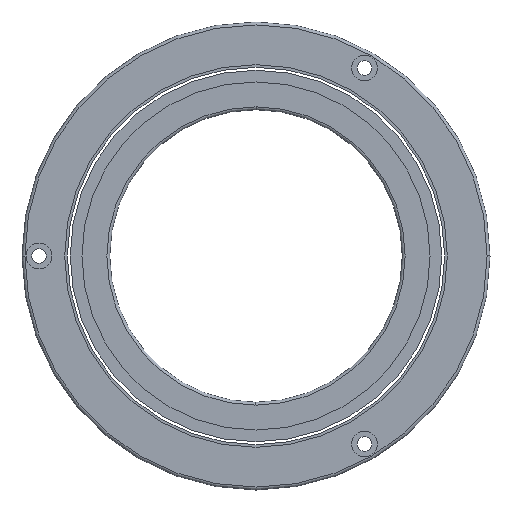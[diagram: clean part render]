
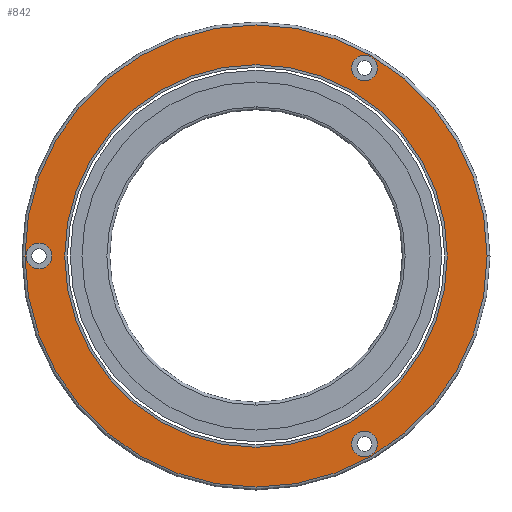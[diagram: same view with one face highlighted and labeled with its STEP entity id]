
A CAD part, front view. The second image highlights one B-rep face of the part: STEP entity #842.
In plain terms, the highlighted planar face has unit normal (0, -1, 0).
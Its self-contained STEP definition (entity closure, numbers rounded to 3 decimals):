
#61=CARTESIAN_POINT('',(0.,0.,0.));
#62=DIRECTION('',(0.,-1.,0.));
#63=DIRECTION('',(-1.,0.,0.));
#64=AXIS2_PLACEMENT_3D('',#61,#62,#63);
#66=CARTESIAN_POINT('',(0.,0.,0.));
#67=DIRECTION('',(0.,1.,0.));
#68=DIRECTION('',(-1.,0.,0.));
#69=AXIS2_PLACEMENT_3D('',#66,#67,#68);
#71=CARTESIAN_POINT('',(-37.1,0.,0.));
#72=DIRECTION('',(0.,1.,0.));
#73=DIRECTION('',(1.,0.,0.));
#74=AXIS2_PLACEMENT_3D('',#71,#72,#73);
#76=CARTESIAN_POINT('',(-37.1,0.,0.));
#77=DIRECTION('',(0.,1.,0.));
#78=DIRECTION('',(-1.,0.,0.));
#79=AXIS2_PLACEMENT_3D('',#76,#77,#78);
#81=CARTESIAN_POINT('',(18.55,0.,32.13));
#82=DIRECTION('',(0.,1.,0.));
#83=DIRECTION('',(-0.5,0.,-0.866));
#84=AXIS2_PLACEMENT_3D('',#81,#82,#83);
#86=CARTESIAN_POINT('',(18.55,0.,32.13));
#87=DIRECTION('',(0.,1.,0.));
#88=DIRECTION('',(0.5,0.,0.866));
#89=AXIS2_PLACEMENT_3D('',#86,#87,#88);
#91=CARTESIAN_POINT('',(18.55,0.,-32.13));
#92=DIRECTION('',(0.,1.,0.));
#93=DIRECTION('',(-0.5,0.,0.866));
#94=AXIS2_PLACEMENT_3D('',#91,#92,#93);
#96=CARTESIAN_POINT('',(18.55,0.,-32.13));
#97=DIRECTION('',(0.,1.,0.));
#98=DIRECTION('',(0.5,0.,-0.866));
#99=AXIS2_PLACEMENT_3D('',#96,#97,#98);
#101=CARTESIAN_POINT('',(0.,0.,0.));
#102=DIRECTION('',(0.,1.,0.));
#103=DIRECTION('',(-1.,0.,0.));
#104=AXIS2_PLACEMENT_3D('',#101,#102,#103);
#106=CARTESIAN_POINT('',(0.,0.,0.));
#107=DIRECTION('',(0.,1.,0.));
#108=DIRECTION('',(1.,0.,0.));
#109=AXIS2_PLACEMENT_3D('',#106,#107,#108);
#667=CARTESIAN_POINT('',(-34.9,0.,0.));
#668=VERTEX_POINT('',#667);
#669=CARTESIAN_POINT('',(-39.3,0.,0.));
#670=VERTEX_POINT('',#669);
#679=CARTESIAN_POINT('',(17.45,0.,30.224));
#680=VERTEX_POINT('',#679);
#681=CARTESIAN_POINT('',(19.65,0.,34.035));
#682=VERTEX_POINT('',#681);
#691=CARTESIAN_POINT('',(17.45,0.,-30.224));
#692=VERTEX_POINT('',#691);
#693=CARTESIAN_POINT('',(19.65,0.,-34.035));
#694=VERTEX_POINT('',#693);
#712=CARTESIAN_POINT('',(-32.7,0.,0.));
#714=VERTEX_POINT('',#712);
#716=CARTESIAN_POINT('',(32.7,0.,0.));
#718=VERTEX_POINT('',#716);
#731=CARTESIAN_POINT('',(-39.5,0.,0.));
#732=CARTESIAN_POINT('',(39.5,0.,0.));
#733=VERTEX_POINT('',#731);
#734=VERTEX_POINT('',#732);
#809=CARTESIAN_POINT('',(0.,0.,0.));
#810=DIRECTION('',(0.,1.,0.));
#811=DIRECTION('',(1.,0.,0.));
#812=AXIS2_PLACEMENT_3D('',#809,#810,#811);
#813=PLANE('',#812);
#815=ORIENTED_EDGE('',*,*,#814,.T.);
#817=ORIENTED_EDGE('',*,*,#816,.T.);
#818=EDGE_LOOP('',(#815,#817));
#819=FACE_OUTER_BOUND('',#818,.F.);
#821=ORIENTED_EDGE('',*,*,#820,.F.);
#823=ORIENTED_EDGE('',*,*,#822,.F.);
#824=EDGE_LOOP('',(#821,#823));
#825=FACE_BOUND('',#824,.F.);
#827=ORIENTED_EDGE('',*,*,#826,.F.);
#829=ORIENTED_EDGE('',*,*,#828,.F.);
#830=EDGE_LOOP('',(#827,#829));
#831=FACE_BOUND('',#830,.F.);
#833=ORIENTED_EDGE('',*,*,#832,.F.);
#835=ORIENTED_EDGE('',*,*,#834,.F.);
#836=EDGE_LOOP('',(#833,#835));
#837=FACE_BOUND('',#836,.F.);
#838=ORIENTED_EDGE('',*,*,#804,.T.);
#839=ORIENTED_EDGE('',*,*,#788,.F.);
#840=EDGE_LOOP('',(#838,#839));
#841=FACE_BOUND('',#840,.F.);
#65=CIRCLE('',#64,32.7);
#70=CIRCLE('',#69,32.7);
#75=CIRCLE('',#74,2.2);
#80=CIRCLE('',#79,2.2);
#85=CIRCLE('',#84,2.2);
#90=CIRCLE('',#89,2.2);
#95=CIRCLE('',#94,2.2);
#100=CIRCLE('',#99,2.2);
#105=CIRCLE('',#104,39.5);
#110=CIRCLE('',#109,39.5);
#788=EDGE_CURVE('',#714,#718,#70,.T.);
#804=EDGE_CURVE('',#714,#718,#65,.T.);
#814=EDGE_CURVE('',#733,#734,#105,.T.);
#816=EDGE_CURVE('',#734,#733,#110,.T.);
#820=EDGE_CURVE('',#668,#670,#75,.T.);
#822=EDGE_CURVE('',#670,#668,#80,.T.);
#826=EDGE_CURVE('',#680,#682,#85,.T.);
#828=EDGE_CURVE('',#682,#680,#90,.T.);
#832=EDGE_CURVE('',#692,#694,#95,.T.);
#834=EDGE_CURVE('',#694,#692,#100,.T.);
#842=ADVANCED_FACE('',(#819,#825,#831,#837,#841),#813,.F.);
